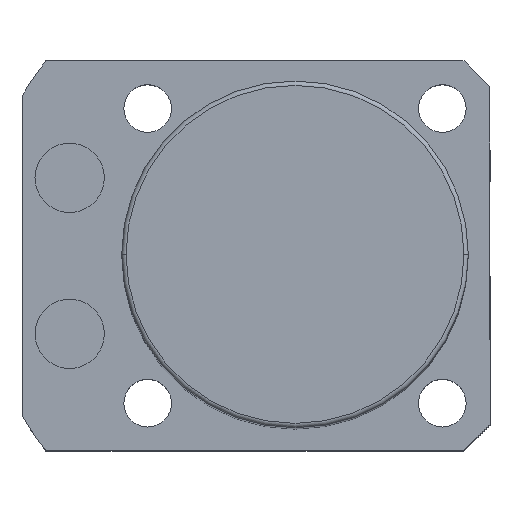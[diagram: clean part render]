
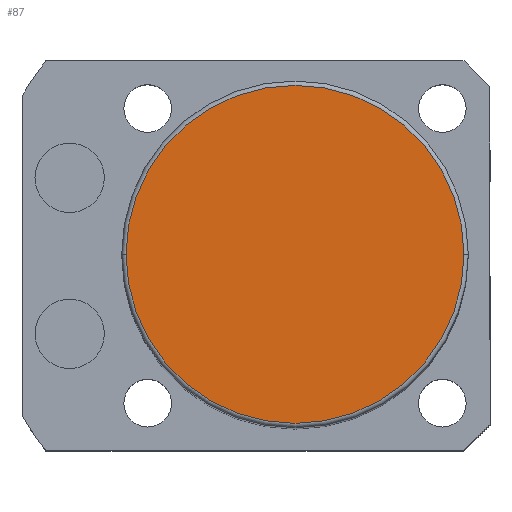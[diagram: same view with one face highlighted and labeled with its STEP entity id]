
A CAD part, top view. The second image highlights one B-rep face of the part: STEP entity #87.
In plain terms, the highlighted planar face has unit normal (0, 0, 1).
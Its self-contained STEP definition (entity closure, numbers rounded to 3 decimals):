
#87 = ADVANCED_FACE ( 'NONE', ( #219 ), #745, .T. ) ;
#145 = CARTESIAN_POINT ( 'NONE',  ( -19.5, 0., 108.5 ) ) ;
#150 = CARTESIAN_POINT ( 'NONE',  ( 19.5, 0., 108.5 ) ) ;
#213 = DIRECTION ( 'NONE',  ( 1., 0., 0. ) ) ;
#219 = FACE_OUTER_BOUND ( 'NONE', #335, .T. ) ;
#233 = CIRCLE ( 'NONE', #543, 19.5 ) ;
#282 = DIRECTION ( 'NONE',  ( 1., 0., 0. ) ) ;
#335 = EDGE_LOOP ( 'NONE', ( #714, #815 ) ) ;
#543 = AXIS2_PLACEMENT_3D ( 'NONE', #926, #2196, #1461 ) ;
#651 = AXIS2_PLACEMENT_3D ( 'NONE', #685, #1603, #282 ) ;
#685 = CARTESIAN_POINT ( 'NONE',  ( 0., 0., 108.5 ) ) ;
#714 = ORIENTED_EDGE ( 'NONE', *, *, #996, .T. ) ;
#745 = PLANE ( 'NONE',  #1216 ) ;
#815 = ORIENTED_EDGE ( 'NONE', *, *, #1697, .T. ) ;
#926 = CARTESIAN_POINT ( 'NONE',  ( 0., 0., 108.5 ) ) ;
#996 = EDGE_CURVE ( 'NONE', #2261, #2205, #233, .T. ) ;
#1216 = AXIS2_PLACEMENT_3D ( 'NONE', #1510, #1298, #213 ) ;
#1298 = DIRECTION ( 'NONE',  ( 0., 0., 1. ) ) ;
#1374 = CIRCLE ( 'NONE', #651, 19.5 ) ;
#1461 = DIRECTION ( 'NONE',  ( 1., 0., 0. ) ) ;
#1510 = CARTESIAN_POINT ( 'NONE',  ( 0., 0., 108.5 ) ) ;
#1603 = DIRECTION ( 'NONE',  ( 0., 0., 1. ) ) ;
#1697 = EDGE_CURVE ( 'NONE', #2205, #2261, #1374, .T. ) ;
#2196 = DIRECTION ( 'NONE',  ( 0., 0., 1. ) ) ;
#2205 = VERTEX_POINT ( 'NONE', #145 ) ;
#2261 = VERTEX_POINT ( 'NONE', #150 ) ;
